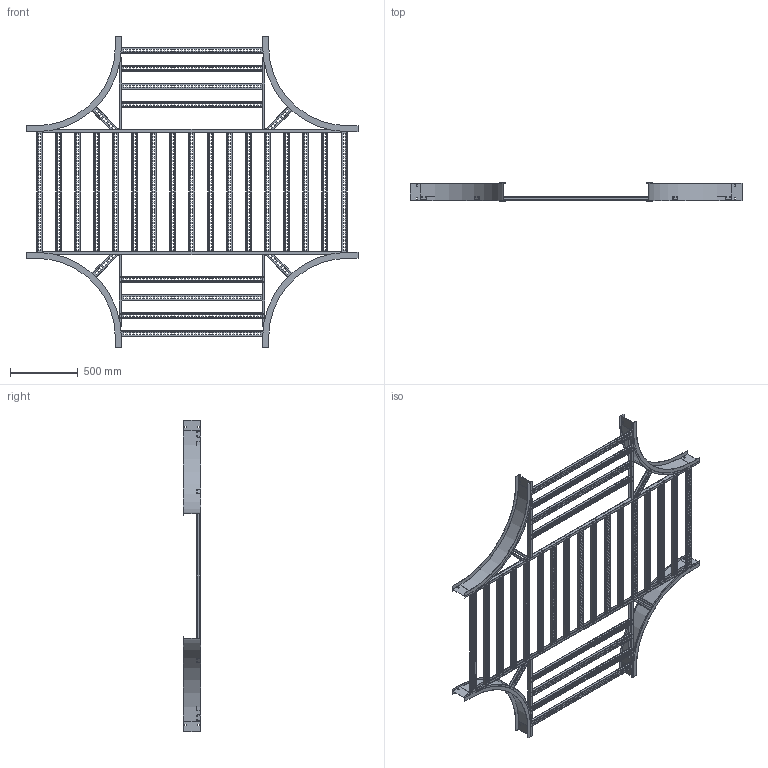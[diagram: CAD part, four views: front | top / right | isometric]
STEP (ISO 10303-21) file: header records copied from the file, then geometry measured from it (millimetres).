
FILE_DESCRIPTION((''),'2;1');
FILE_NAME('AHF53642VEX24_ASM','2010-02-03T',('erouzier'),(''),'PRO/ENGINEER BY PARAMETRIC TECHNOLOGY CORPORATION, 2008510','PRO/ENGINEER BY PARAMETRIC TECHNOLOGY CORPORATION, 2008510','');
FILE_SCHEMA(('CONFIG_CONTROL_DESIGN'));
Length unit declared in the file: inch
Products named in the file (29): CDS001811-5-90-24-I; CDS002159L36-P_AF15; CDS002159L36-P_AF16; CDS002159L36-P_AF17; CDS002159L36-P_AF18; CDS002159L36-P_AF24; CDS002159L36-P_AF26; CDS002159L36-P_AF28; CDS002159L36-P; CDS002159L36-P_AF19; CDS002159L36-P_AF20; CDS002159L36-P_AF21; CDS002159L36-P_AF23; CDS002159L36-P_AF25; CDS002159L36-P_AF27; CDS002159L36-P_AF29; CDS002159L36-P_AF22; CDS000495_GEN_AF18; CDS000495_GEN_AF19; CDS000495_GEN_AF22; CDS000495_GEN_AF23; CDS000495_GEN_AF20; CDS000495_GEN_AF21; CDS002159L12-P_AF27; CDS002159L12-P_AF28; CDS002159L12-P_AF25; CDS002159L12-P_AF26; CDS002159L42-P; AHF53642VEX24_ASM
Assembly tree (39 placements, depth 2):
  AHF53642VEX24_ASM
    CDS001811-5-90-24-I  x4
    CDS002159L36-P_AF15
    CDS002159L36-P_AF16
    CDS002159L36-P_AF17
    CDS002159L36-P_AF18
    CDS002159L36-P_AF24
    CDS002159L36-P_AF26
    CDS002159L36-P_AF28
    CDS002159L36-P  x2
    CDS002159L36-P_AF19
    CDS002159L36-P_AF20
    CDS002159L36-P_AF21
    CDS002159L36-P_AF23
    CDS002159L36-P_AF25
    CDS002159L36-P_AF27
    CDS002159L36-P_AF29
    CDS002159L36-P_AF22
    CDS000495_GEN_AF18
    CDS000495_GEN_AF19
    CDS000495_GEN_AF22
    CDS000495_GEN_AF23
    CDS000495_GEN_AF20
    CDS000495_GEN_AF21
    CDS002159L12-P_AF27
    CDS002159L12-P_AF28
    CDS002159L12-P_AF25
    CDS002159L12-P_AF26
    CDS002159L42-P  x8
Bounding box: 2442.46 x 129.03 x 2290.06 mm (x, y, z)
Volume: 6257766.4 mm3; surface area: 8314832.3 mm2
Topology: 39 solids, 39 shells, 8554 faces, 25428 edges, 16952 vertices
Faces by surface type: plane 4491, cylinder 4063
Entity records: 194905 total; most frequent: CARTESIAN_POINT 34224, ORIENTED_EDGE 33720, DIRECTION 33662, EDGE_CURVE 16860, VECTOR 11458, LINE 11458, VERTEX_POINT 11240, AXIS2_PLACEMENT_3D 11102
